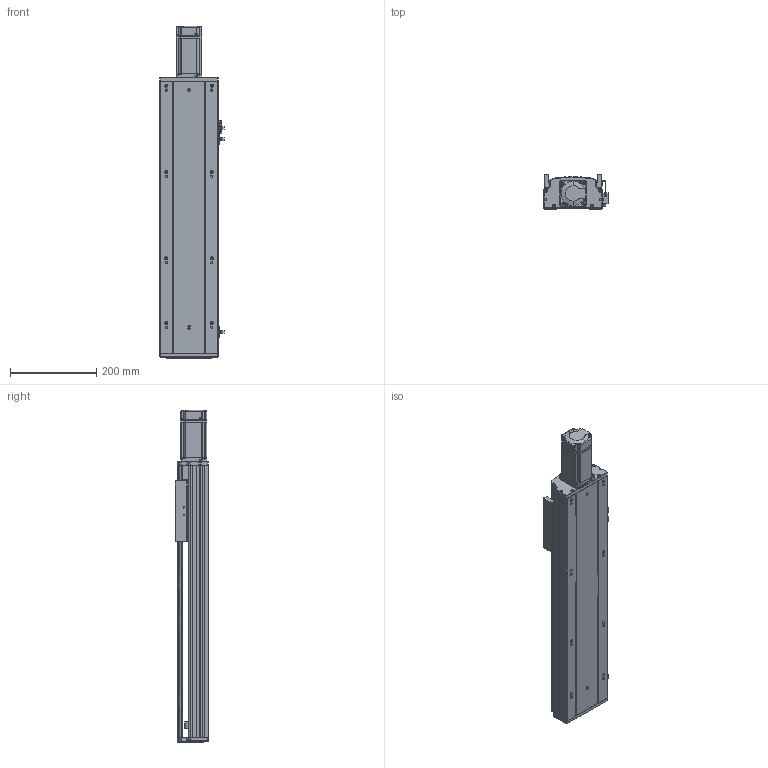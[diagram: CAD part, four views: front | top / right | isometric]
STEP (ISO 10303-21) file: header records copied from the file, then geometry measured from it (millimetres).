
FILE_DESCRIPTION (( 'STEP AP203' ), '1' );
FILE_NAME ('RY140Q-L2010-700-MK.SLDASM_0400.step', '2021-05-27T03:21:43', ( '盈信电脑' ), ( '东莞市道滘镇水果街19号' ), 'SwSTEP 2.0', 'SolidWorks 2016', '' );
FILE_SCHEMA (( 'CONFIG_CONTROL_DESIGN' ));
Length unit declared in the file: millimetre
Products named in the file (14): RY140綴裔啣; 滅袉蝶18-10; 15; RY140Q臏賑輸(20佪裝-J); 覜茼ん672; RY140Q-700-MK倰第菁釱_0400; RY120外置感应片(140共用）; RY140Q-700-MK倰第奻裔啣_0400; 滅袉蝶18-15; RY140Q萇儂傷盓傅釱FK12(80.5酗M5); 鞠褒坶踡蹟譫BK12 ; RY140Q-L2010-700-MK.SLDASM_0400; 侂狟400W侜督萇儂; RY140ヶ裔啣
Assembly tree (16 placements, depth 3):
  RY140Q-L2010-700-MK.SLDASM_0400
    RY140Q-700-MK倰第菁釱_0400
    RY140Q臏賑輸(20佪裝-J)
    RY140Q-700-MK倰第奻裔啣_0400
    RY140ヶ裔啣
    侂狟400W侜督萇儂
      15
    鞠褒坶踡蹟譫BK12 
    RY140綴裔啣
    覜茼ん672  x3
    RY120外置感应片(140共用）
    RY140Q萇儂傷盓傅釱FK12(80.5酗M5)
    滅袉蝶18-10
    滅袉蝶18-15  x2
Bounding box: 148.7 x 78 x 769.5 mm (x, y, z)
Volume: 2409437.5 mm3; surface area: 820635.6 mm2
Topology: 15 solids, 15 shells, 2015 faces, 5538 edges, 3557 vertices
Faces by surface type: plane 1078, cylinder 676, cone 176, bspline 85
Entity records: 66493 total; most frequent: CARTESIAN_POINT 15954, ORIENTED_EDGE 10416, DIRECTION 9890, EDGE_CURVE 5208, VERTEX_POINT 3417, LINE 3406, VECTOR 3406, AXIS2_PLACEMENT_3D 3242
